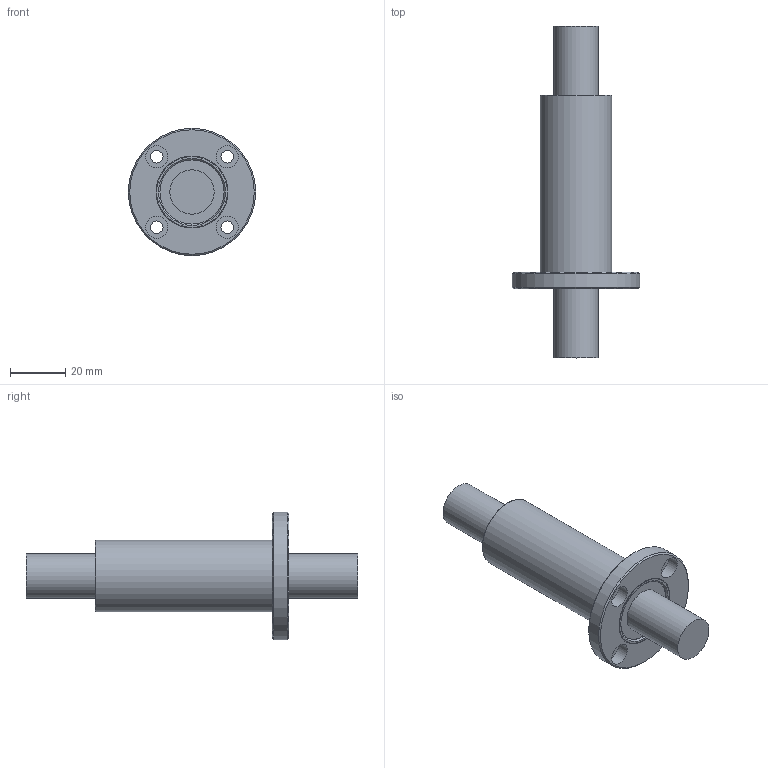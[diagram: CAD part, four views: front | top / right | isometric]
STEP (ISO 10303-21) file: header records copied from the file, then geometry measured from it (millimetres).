
FILE_DESCRIPTION((''),'2;1');
FILE_NAME('D:\STEP\EUROPE\BLANK\LMEF L\LMEF16L.stp','2013-02-05T17:58:27',('user2'),(''),'Autodesk Inventor 2012','Autodesk Inventor 2012','');
FILE_SCHEMA(('AUTOMOTIVE_DESIGN { 1 0 10303 214 1 1 1 1 }'));
Length unit declared in the file: millimetre
Products named in the file (1): LMEF16L
Bounding box: 46 x 120 x 46 mm (x, y, z)
Volume: 52562.8 mm3; surface area: 12450.3 mm2
Topology: 1 solids, 1 shells, 33 faces, 59 edges, 38 vertices
Faces by surface type: cylinder 15, plane 12, cone 4, torus 2
Full cylindrical faces by diameter (mm): 4.5 x4, 8 x4, 16 x2, 23.2 x2, 26 x2, 46 x1
Entity records: 736 total; most frequent: DIRECTION 140, CARTESIAN_POINT 106, ORIENTED_EDGE 72, EDGE_LOOP 72, AXIS2_PLACEMENT_3D 70, FACE_BOUND 39, VERTEX_POINT 36, CIRCLE 36
